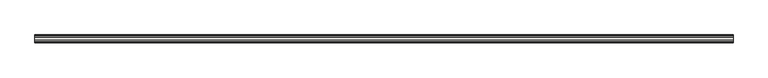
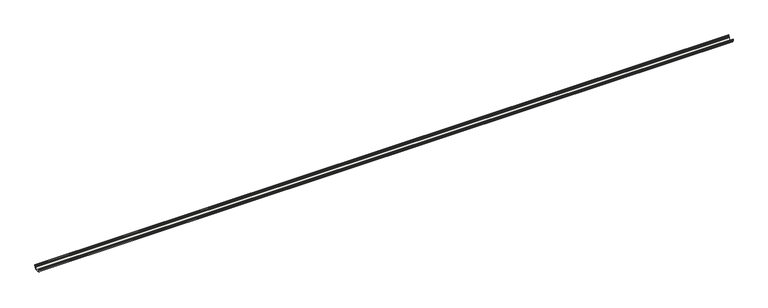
"""IFC4 building model written with IfcOpenShell, lengths in millimetres: slab geometry, ROSA GRES_CRA C1 : Pieza CRA C1."""

import ifcopenshell
import ifcopenshell.guid

model = None  # the IFC model being written
_history = None  # IfcOwnerHistory: only IFC2X3 demands one
_inside = {}  # id of a spatial element -> (the spatial element, [elements in it])
_under = {}  # id of a project, library or spatial element -> (it, [spatial elements below it])
_declared = {}  # id of a project -> (the project, [libraries it declares])
_typed = {}  # id of a type object -> (the type object, [elements of that type])
_made_of = {}  # id of a material, layer set ... -> (it, [elements and type objects made of it])


def new_model(schema):
    """Start an empty IFC model of exactly this schema.

    Asked for "IFC4X3", IfcOpenShell would pick the latest addendum, in which some entities
    have other attributes; the version numbers below select the first issue.
    IFC2X3 requires an IfcOwnerHistory on every rooted entity: one is made here for all.
    """
    global model, _history
    if schema == "IFC4X3":
        model = ifcopenshell.file(schema_version=(4, 3, 0, 0))
    else:
        model = ifcopenshell.file(schema=schema)
    _inside.clear()
    _under.clear()
    _declared.clear()
    _typed.clear()
    _made_of.clear()
    _history = None
    if model.schema == "IFC2X3":
        org = make("IfcOrganization", Name="unknown")
        user = make(
            "IfcPersonAndOrganization",
            ThePerson=make("IfcPerson", FamilyName="unknown"),
            TheOrganization=org,
        )
        app = make(
            "IfcApplication",
            ApplicationDeveloper=org,
            Version="unknown",
            ApplicationFullName="unknown",
            ApplicationIdentifier="unknown",
        )
        _history = make(
            "IfcOwnerHistory",
            OwningUser=user,
            OwningApplication=app,
            ChangeAction="ADDED",
            CreationDate=0,
        )
    return model


def make(cls, **values):
    """One entity of the class cls with the attributes given. An attribute that is None is left unset."""
    return model.create_entity(
        cls, **{name: value for name, value in values.items() if value is not None}
    )


def rooted(cls, **values):
    """An entity with a GlobalId (a new one), such as an element, a storey or a relation."""
    return make(cls, GlobalId=ifcopenshell.guid.new(), OwnerHistory=_history, **values)


def si_unit(unit_type, name, prefix=None):
    """IfcSIUnit, for example si_unit("LENGTHUNIT", "METRE", prefix="MILLI")."""
    return make("IfcSIUnit", UnitType=unit_type, Prefix=prefix, Name=name)


def assignment(units):
    """IfcUnitAssignment: the units of a project."""
    return None if units is None else make("IfcUnitAssignment", Units=units)


def point(xyz):
    """IfcCartesianPoint."""
    return None if xyz is None else make("IfcCartesianPoint", Coordinates=xyz)


def direction(xyz):
    """IfcDirection."""
    return None if xyz is None else make("IfcDirection", DirectionRatios=xyz)


def frame(location, z_axis=None, x_axis=None):
    """IfcAxis2Placement3D, a coordinate frame: its origin and axes. An axis left out is left unset."""
    return make(
        "IfcAxis2Placement3D",
        Location=point(location),
        Axis=direction(z_axis),
        RefDirection=direction(x_axis),
    )


def frame_2d(location, x_axis=None):
    """IfcAxis2Placement2D, a coordinate frame in the plane: its origin and x axis."""
    return make(
        "IfcAxis2Placement2D", Location=point(location), RefDirection=direction(x_axis)
    )


def origin():
    """The frame at (0, 0, 0) with its axes left unset."""
    return frame((0.0, 0.0, 0.0))


def place(relative_to, where):
    """IfcLocalPlacement: puts the frame where relative to a parent placement (None: the world)."""
    return make(
        "IfcLocalPlacement", PlacementRelTo=relative_to, RelativePlacement=where
    )


def context(
    kind, dimensions, precision=None, world=None, true_north=None, identifier=None
):
    """IfcGeometricRepresentationContext, for example the 3D "Model" context."""
    return make(
        "IfcGeometricRepresentationContext",
        ContextIdentifier=identifier,
        ContextType=kind,
        CoordinateSpaceDimension=dimensions,
        Precision=precision,
        WorldCoordinateSystem=world,
        TrueNorth=true_north,
    )


def project(units=None, contexts=None):
    """IfcProject with its units and contexts."""
    return rooted(
        "IfcProject",
        Name="project",
        RepresentationContexts=contexts,
        UnitsInContext=assignment(units),
    )


def spatial(cls, under=None, at=None, **own):
    """A site, building, storey or space (cls), placed at a placement, below another one or the project."""
    s = rooted(cls, ObjectPlacement=at, **own)
    if under is not None:
        _under.setdefault(under.id(), (under, []))[1].append(s)
    return s


def polyline(points):
    """IfcPolyline through the points."""
    return make("IfcPolyline", Points=[point(p) for p in points])


def circle_curve(where, radius):
    """IfcCircle in the frame where."""
    return make("IfcCircle", Position=where, Radius=radius)


def trimmed(basis, trim1, trim2, sense, master):
    """IfcTrimmedCurve: the piece of a basis curve between two trims."""
    return make(
        "IfcTrimmedCurve",
        BasisCurve=basis,
        Trim1=trim1,
        Trim2=trim2,
        SenseAgreement=sense,
        MasterRepresentation=master,
    )


def segment(curve, same_sense, transition):
    """IfcCompositeCurveSegment."""
    return make(
        "IfcCompositeCurveSegment",
        Transition=transition,
        SameSense=same_sense,
        ParentCurve=curve,
    )


def composite_curve(segments, self_intersect=None):
    """IfcCompositeCurve: segments joined end to end."""
    return make("IfcCompositeCurve", Segments=segments, SelfIntersect=self_intersect)


def outline(outer, holes=None, kind="AREA"):
    """IfcArbitraryClosedProfileDef: a profile drawn as a closed curve; with holes, ...WithVoids."""
    if holes is None:
        return make("IfcArbitraryClosedProfileDef", ProfileType=kind, OuterCurve=outer)
    return make(
        "IfcArbitraryProfileDefWithVoids",
        ProfileType=kind,
        OuterCurve=outer,
        InnerCurves=holes,
    )


def extrude(swept, where, along, depth):
    """IfcExtrudedAreaSolid: the profile swept, set in the frame where, extruded along a direction by depth."""
    return make(
        "IfcExtrudedAreaSolid",
        SweptArea=swept,
        Position=where,
        ExtrudedDirection=direction(along),
        Depth=depth,
    )


def shape(context_of_items, identifier, shape_type, items):
    """IfcShapeRepresentation: the items that make up one representation, for example the "Body"."""
    return make(
        "IfcShapeRepresentation",
        ContextOfItems=context_of_items,
        RepresentationIdentifier=identifier,
        RepresentationType=shape_type,
        Items=items,
    )


def source(mapping_origin, context_of_items, identifier, shape_type, items):
    """IfcRepresentationMap: a shape defined once, which mapped items show again and again."""
    return make(
        "IfcRepresentationMap",
        MappingOrigin=mapping_origin,
        MappedRepresentation=shape(context_of_items, identifier, shape_type, items),
    )


def transform(
    local_origin,
    x_axis=None,
    y_axis=None,
    z_axis=None,
    scale=None,
    scale2=None,
    scale3=None,
    uniform=True,
):
    """IfcCartesianTransformationOperator3D, or its non-uniform kind. x_axis, y_axis, z_axis: its Axis1, 2, 3."""
    if uniform:
        return make(
            "IfcCartesianTransformationOperator3D",
            Axis1=direction(x_axis),
            Axis2=direction(y_axis),
            LocalOrigin=point(local_origin),
            Scale=scale,
            Axis3=direction(z_axis),
        )
    return make(
        "IfcCartesianTransformationOperator3DnonUniform",
        Axis1=direction(x_axis),
        Axis2=direction(y_axis),
        LocalOrigin=point(local_origin),
        Scale=scale,
        Axis3=direction(z_axis),
        Scale2=scale2,
        Scale3=scale3,
    )


def mapped(mapping_source, mapping_target):
    """IfcMappedItem: shows the shape of a source again, moved by a transform."""
    return make(
        "IfcMappedItem", MappingSource=mapping_source, MappingTarget=mapping_target
    )


def made_of(thing, what):
    """Note that an element or type object is made of a material, layer set ...; save() writes the relation."""
    if what is not None:
        _made_of.setdefault(what.id(), (what, []))[1].append(thing)
    return thing


def element(
    cls,
    number,
    at=None,
    inside=None,
    cuts=None,
    type_object=None,
    material=None,
    context=None,
    identifier="Body",
    shape_type=None,
    held_by="IfcProductDefinitionShape",
    body=None,
    shapes=None,
    **own,
):
    """One element of the class cls, such as IfcWall. Its Tag is "e" and its number.

    at: its placement. inside: the storey or other place that contains it. cuts: it is an
    opening in that element (IfcRelVoidsElement). A single representation is given by context,
    identifier, shape_type and body (its items); several are given by shapes. held_by: the class
    of the entity that holds the representations. save() writes the other relations.
    """
    e = rooted(cls, Tag="e%d" % number, ObjectPlacement=at, **own)
    if body is not None:
        shapes = [shape(context, identifier, shape_type, body)]
    if shapes is not None:
        e.Representation = make(held_by, Representations=shapes)
    if inside is not None:
        _inside.setdefault(inside.id(), (inside, []))[1].append(e)
    if cuts is not None:
        rooted(
            "IfcRelVoidsElement", RelatingBuildingElement=cuts, RelatedOpeningElement=e
        )
    if type_object is not None:
        _typed.setdefault(type_object.id(), (type_object, []))[1].append(e)
    return made_of(e, material)


def aggregate(whole, parts):
    """IfcRelAggregates: a whole, such as a stair, and the parts it consists of."""
    return rooted("IfcRelAggregates", RelatingObject=whole, RelatedObjects=parts)


def save(model, path):
    """Write the relations noted so far, then the file.

    IfcRelAggregates (storeys below a building ...), IfcRelContainedInSpatialStructure (elements
    in a storey), IfcRelDefinesByType, IfcRelAssociatesMaterial and IfcRelDeclares: one each for
    every whole, place, type object, material and project.
    """
    for whole, parts in _under.values():
        aggregate(whole, parts)
    for where, things in _inside.values():
        rooted(
            "IfcRelContainedInSpatialStructure",
            RelatedElements=things,
            RelatingStructure=where,
        )
    for kind, things in _typed.values():
        rooted("IfcRelDefinesByType", RelatedObjects=things, RelatingType=kind)
    for what, things in _made_of.values():
        rooted("IfcRelAssociatesMaterial", RelatedObjects=things, RelatingMaterial=what)
    for by, libraries in _declared.values():
        rooted("IfcRelDeclares", RelatingContext=by, RelatedDefinitions=libraries)
    model.write(path)


def slab_a5560b30(model_context):
    return source(origin(), model_context, "Body", "SweptSolid", [
        extrude(outline(composite_curve([segment(polyline([(0.0, -5.0), (-2.4, -5.0), (-2.4, -23.0), (-14.5016721, -23.0), (-14.8080194, -40.5506234)]), True, "CONTINUOUS"), segment(trimmed(circle_curve(frame_2d((-46.3532142, -40.0)), 31.55), [point((-14.8080194, -40.5506234))], [point((-46.3532142, -71.55))], False, "CARTESIAN"), True, "CONTINUOUS"), segment(polyline([(-46.3532142, -71.55), (-93.6467858, -71.55)]), True, "CONTINUOUS"), segment(trimmed(circle_curve(frame_2d((-93.6467858, -40.0)), 31.55), [point((-93.6467858, -71.55))], [point((-125.1919806, -40.5506234))], False, "CARTESIAN"), True, "CONTINUOUS"), segment(polyline([(-125.1919806, -40.5506234), (-125.4983279, -23.0), (-137.6, -23.0), (-137.6, -5.0), (-140.0, -5.0), (-140.0, 0.0), (-135.0, 0.0), (-135.0, -20.0), (-121.0, -20.0), (-120.6426736, -40.471215)]), True, "CONTINUOUS"), segment(trimmed(circle_curve(frame_2d((-93.6467858, -40.0)), 27.0), [point((-120.6426736, -40.471215))], [point((-93.6467858, -67.0))], True, "CARTESIAN"), True, "CONTINUOUS"), segment(polyline([(-93.6467858, -67.0), (-46.3532142, -67.0)]), True, "CONTINUOUS"), segment(trimmed(circle_curve(frame_2d((-46.3532142, -40.0)), 27.0), [point((-46.3532142, -67.0))], [point((-19.3573264, -40.471215))], True, "CARTESIAN"), True, "CONTINUOUS"), segment(polyline([(-19.3573264, -40.471215), (-19.0, -20.0), (-5.0, -20.0), (-5.0, 0.0), (0.0, 0.0), (0.0, -5.0)]), True, "CONTINUOUS")], self_intersect=False)), frame((0.0, 0.0, 0.0), z_axis=(1.0, 0.0, 0.0), x_axis=(0.0, 1.0, 0.0)), (0.0, 0.0, 1.0), 12300.0),
    ])


if __name__ == "__main__":
    model = new_model("IFC4")
    model_context = context("Model", 3, world=origin())
    ifc_project = project(units=[si_unit("LENGTHUNIT", "METRE", prefix="MILLI")], contexts=[model_context])
    site = spatial("IfcSite", under=ifc_project)
    building = spatial("IfcBuilding", under=site)
    placement = place(None, origin())
    slab_shape = slab_a5560b30(model_context)
    element("IfcSlab", 1, ObjectType="ROSA GRES_CRA C1 : Pieza CRA C1", at=placement, inside=building, context=model_context, shape_type="MappedRepresentation", body=[
        mapped(slab_shape, transform((0.0, 0.0, 0.0), x_axis=(1.0, 0.0, 0.0), y_axis=(0.0, 1.0, 0.0), z_axis=(0.0, 0.0, 1.0))),
    ])
    save(model, "model.ifc")
